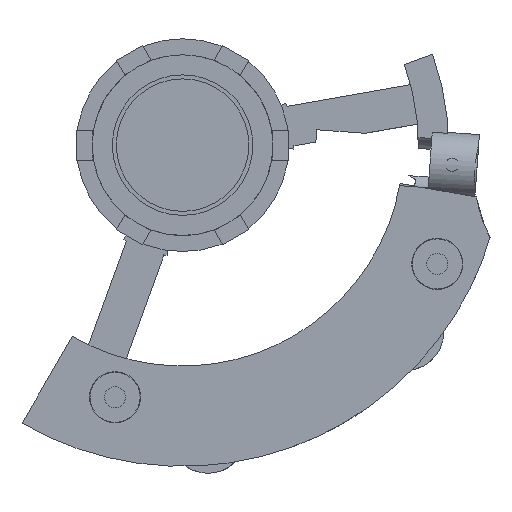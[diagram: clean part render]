
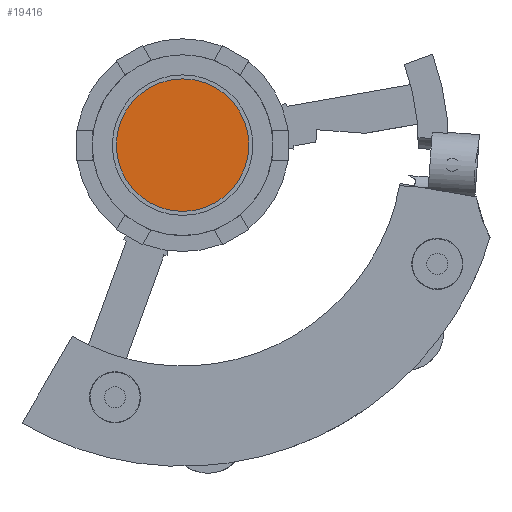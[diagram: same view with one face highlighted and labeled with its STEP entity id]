
A CAD part, left-side view. The second image highlights one B-rep face of the part: STEP entity #19416.
In plain terms, the highlighted planar face has unit normal (-1, 0, 0).
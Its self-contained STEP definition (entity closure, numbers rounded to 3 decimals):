
#19291 = CYLINDRICAL_SURFACE('',#19292,6.6);
#19292 = AXIS2_PLACEMENT_3D('',#19293,#19294,#19295);
#19293 = CARTESIAN_POINT('',(-64.07,-49.893,-53.918));
#19294 = DIRECTION('',(1.,0.,0.));
#19295 = DIRECTION('',(-0.,1.,0.));
#19362 = VERTEX_POINT('',#19363);
#19363 = CARTESIAN_POINT('',(-64.,-43.293,-53.918));
#19386 = EDGE_CURVE('',#19362,#19362,#19387,.T.);
#19387 = SURFACE_CURVE('',#19388,(#19393,#19400),.PCURVE_S1.);
#19388 = CIRCLE('',#19389,6.6);
#19389 = AXIS2_PLACEMENT_3D('',#19390,#19391,#19392);
#19390 = CARTESIAN_POINT('',(-64.,-49.893,-53.918));
#19391 = DIRECTION('',(1.,0.,0.));
#19392 = DIRECTION('',(-0.,1.,0.));
#19393 = PCURVE('',#19291,#19394);
#19394 = DEFINITIONAL_REPRESENTATION('',(#19395),#19399);
#19395 = LINE('',#19396,#19397);
#19396 = CARTESIAN_POINT('',(0.,0.07));
#19397 = VECTOR('',#19398,1.);
#19398 = DIRECTION('',(1.,0.));
#19399 = ( GEOMETRIC_REPRESENTATION_CONTEXT(2) 
PARAMETRIC_REPRESENTATION_CONTEXT() REPRESENTATION_CONTEXT('2D SPACE',''
  ) );
#19400 = PCURVE('',#19401,#19406);
#19401 = PLANE('',#19402);
#19402 = AXIS2_PLACEMENT_3D('',#19403,#19404,#19405);
#19403 = CARTESIAN_POINT('',(-64.,-49.893,-53.918));
#19404 = DIRECTION('',(1.,0.,0.));
#19405 = DIRECTION('',(-0.,1.,0.));
#19406 = DEFINITIONAL_REPRESENTATION('',(#19407),#19411);
#19407 = CIRCLE('',#19408,6.6);
#19408 = AXIS2_PLACEMENT_2D('',#19409,#19410);
#19409 = CARTESIAN_POINT('',(0.,0.));
#19410 = DIRECTION('',(1.,0.));
#19411 = ( GEOMETRIC_REPRESENTATION_CONTEXT(2) 
PARAMETRIC_REPRESENTATION_CONTEXT() REPRESENTATION_CONTEXT('2D SPACE',''
  ) );
#19416 = ADVANCED_FACE('',(#19417),#19401,.F.);
#19417 = FACE_BOUND('',#19418,.F.);
#19418 = EDGE_LOOP('',(#19419));
#19419 = ORIENTED_EDGE('',*,*,#19386,.T.);
